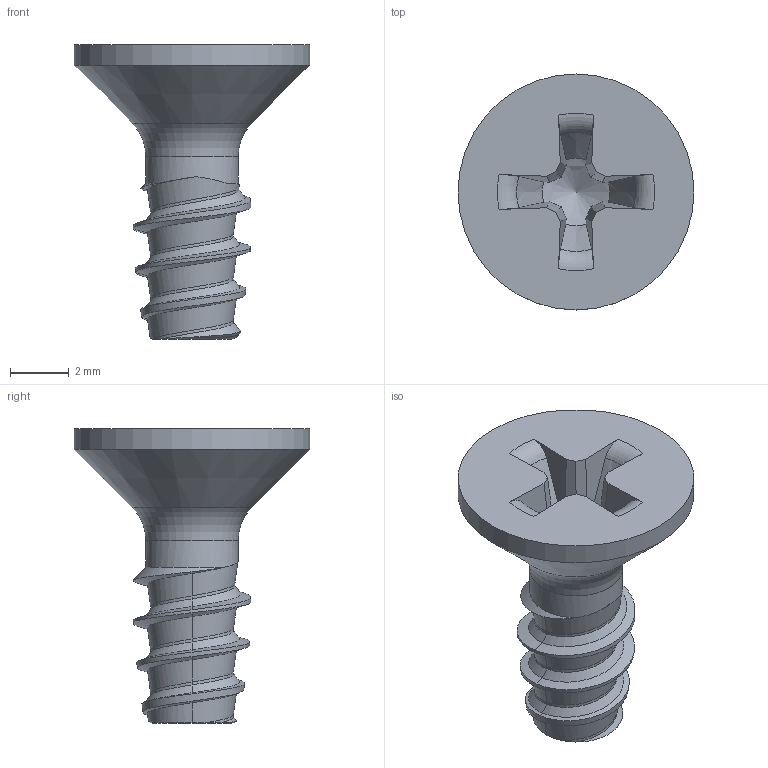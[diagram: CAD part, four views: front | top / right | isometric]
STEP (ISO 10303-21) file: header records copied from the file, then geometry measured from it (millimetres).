
FILE_DESCRIPTION(/* description */ (''),/* implementation_level */ '2;1');
FILE_NAME(/* name */ 'KN6041-STSplus-40x10-H2.step',/* time_stamp */ '2017-10-12T12:39:02+02:00',/* author */ (''),/* organization */ (''),/* preprocessor_version */ 'ST-DEVELOPER v16',/* originating_system */ 'SIEMENS PLM Software NX 10.0',/* authorisation */ '');
FILE_SCHEMA (('AUTOMOTIVE_DESIGN { 1 0 10303 214 3 1 1 1 }'));
Length unit declared in the file: millimetre
Products named in the file (1): KN6041-STSplus-40x10-H2
Bounding box: 8 x 8 x 10 mm (x, y, z)
Volume: 138.3 mm3; surface area: 244.8 mm2
Topology: 1 solids, 1 shells, 57 faces, 150 edges, 95 vertices
Faces by surface type: bspline 22, plane 18, cone 8, torus 6, cylinder 3
Full cylindrical faces by diameter (mm): 3.13 x1, 8 x1
Entity records: 2908 total; most frequent: CARTESIAN_POINT 1730, ORIENTED_EDGE 278, DIRECTION 159, EDGE_CURVE 139, VERTEX_POINT 91, B_SPLINE_CURVE_WITH_KNOTS 73, EDGE_LOOP 63, ADVANCED_FACE 57
